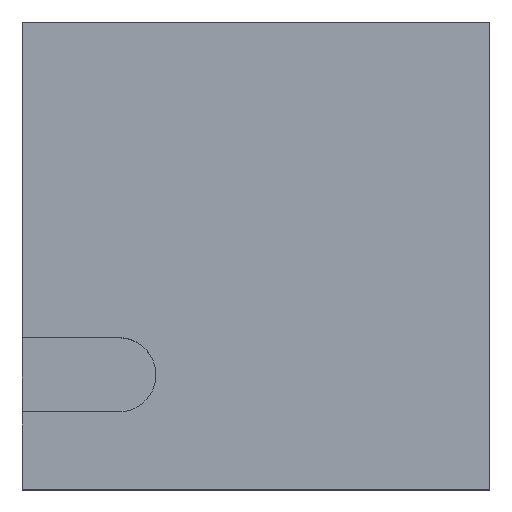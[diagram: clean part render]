
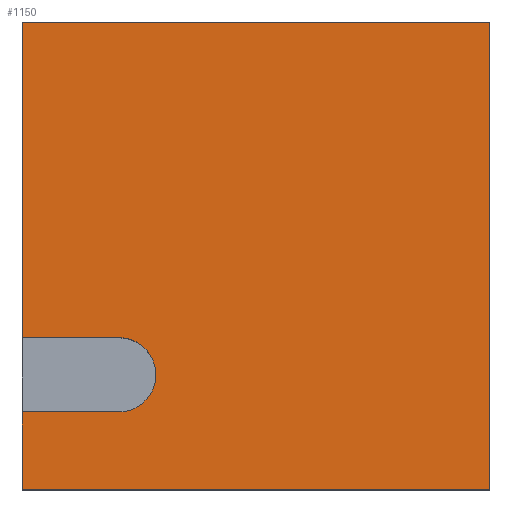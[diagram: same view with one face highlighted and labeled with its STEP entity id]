
A CAD part, top view. The second image highlights one B-rep face of the part: STEP entity #1150.
In plain terms, the highlighted planar face has unit normal (0, 0, 1).
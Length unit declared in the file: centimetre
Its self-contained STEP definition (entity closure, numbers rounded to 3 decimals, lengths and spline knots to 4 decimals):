
#3 = VERTEX_POINT ( 'NONE', #388 ) ;
#14 = CARTESIAN_POINT ( 'NONE',  ( 0., 324.5438, 1000. ) ) ;
#25 = DIRECTION ( 'NONE',  ( -1., 0., 0. ) ) ;
#27 = VERTEX_POINT ( 'NONE', #14 ) ;
#53 = DIRECTION ( 'NONE',  ( 1., 0., 0. ) ) ;
#57 = DIRECTION ( 'NONE',  ( 1., 0., 0. ) ) ;
#60 = CIRCLE ( 'NONE', #969, 79.6286 ) ;
#67 = CARTESIAN_POINT ( 'NONE',  ( 206.1071, 244.9152, 1000. ) ) ;
#68 = VECTOR ( 'NONE', #460, 100. ) ;
#87 = ORIENTED_EDGE ( 'NONE', *, *, #1019, .F. ) ;
#110 = LINE ( 'NONE', #1460, #764 ) ;
#189 = DIRECTION ( 'NONE',  ( -1., 0., 0. ) ) ;
#196 = VECTOR ( 'NONE', #599, 100. ) ;
#209 = VERTEX_POINT ( 'NONE', #720 ) ;
#242 = ORIENTED_EDGE ( 'NONE', *, *, #543, .T. ) ;
#250 = EDGE_CURVE ( 'NONE', #1136, #724, #110, .T. ) ;
#257 = VECTOR ( 'NONE', #25, 100. ) ;
#258 = ORIENTED_EDGE ( 'NONE', *, *, #286, .T. ) ;
#267 = ORIENTED_EDGE ( 'NONE', *, *, #396, .F. ) ;
#286 = EDGE_CURVE ( 'NONE', #724, #633, #504, .T. ) ;
#309 = ORIENTED_EDGE ( 'NONE', *, *, #1120, .F. ) ;
#324 = LINE ( 'NONE', #419, #1515 ) ;
#339 = CARTESIAN_POINT ( 'NONE',  ( 0., 1000., 1000. ) ) ;
#370 = DIRECTION ( 'NONE',  ( 1., 0., 0. ) ) ;
#388 = CARTESIAN_POINT ( 'NONE',  ( 206.1071, 165.2866, 1000. ) ) ;
#396 = EDGE_CURVE ( 'NONE', #3, #1303, #60, .T. ) ;
#419 = CARTESIAN_POINT ( 'NONE',  ( 0., 1000., 1000. ) ) ;
#452 = LINE ( 'NONE', #935, #1558 ) ;
#460 = DIRECTION ( 'NONE',  ( 0., -1., 0. ) ) ;
#476 = EDGE_LOOP ( 'NONE', ( #309, #1327, #267, #87, #1495, #1531, #258, #242, #843 ) ) ;
#486 = CARTESIAN_POINT ( 'NONE',  ( 1000., 1000., 1000. ) ) ;
#493 = CARTESIAN_POINT ( 'NONE',  ( 285.7357, 244.9152, 1000. ) ) ;
#504 = LINE ( 'NONE', #486, #1247 ) ;
#543 = EDGE_CURVE ( 'NONE', #633, #1578, #324, .T. ) ;
#551 = CARTESIAN_POINT ( 'NONE',  ( 1000., 1000., 1000. ) ) ;
#599 = DIRECTION ( 'NONE',  ( 0., -1., 0. ) ) ;
#602 = CIRCLE ( 'NONE', #1484, 79.6286 ) ;
#633 = VERTEX_POINT ( 'NONE', #551 ) ;
#644 = LINE ( 'NONE', #339, #196 ) ;
#720 = CARTESIAN_POINT ( 'NONE',  ( 0., 165.2866, 1000. ) ) ;
#724 = VERTEX_POINT ( 'NONE', #1487 ) ;
#764 = VECTOR ( 'NONE', #370, 100. ) ;
#843 = ORIENTED_EDGE ( 'NONE', *, *, #1243, .T. ) ;
#897 = CARTESIAN_POINT ( 'NONE',  ( 0., 1000., 1000. ) ) ;
#904 = DIRECTION ( 'NONE',  ( 1., 0., 0. ) ) ;
#935 = CARTESIAN_POINT ( 'NONE',  ( 0., 165.2866, 1000. ) ) ;
#969 = AXIS2_PLACEMENT_3D ( 'NONE', #67, #1382, #53 ) ;
#1002 = CARTESIAN_POINT ( 'NONE',  ( 0., 0., 1000. ) ) ;
#1019 = EDGE_CURVE ( 'NONE', #209, #3, #452, .T. ) ;
#1068 = VERTEX_POINT ( 'NONE', #1319 ) ;
#1097 = CARTESIAN_POINT ( 'NONE',  ( 206.1071, 244.9152, 1000. ) ) ;
#1120 = EDGE_CURVE ( 'NONE', #1068, #27, #1368, .T. ) ;
#1136 = VERTEX_POINT ( 'NONE', #1002 ) ;
#1150 = ADVANCED_FACE ( 'NONE', ( #1396 ), #1277, .T. ) ;
#1156 = CARTESIAN_POINT ( 'NONE',  ( 0., 0., 1000. ) ) ;
#1178 = LINE ( 'NONE', #1546, #68 ) ;
#1190 = DIRECTION ( 'NONE',  ( 0., 0., 1. ) ) ;
#1201 = AXIS2_PLACEMENT_3D ( 'NONE', #1156, #1526, #57 ) ;
#1243 = EDGE_CURVE ( 'NONE', #1578, #27, #1178, .T. ) ;
#1247 = VECTOR ( 'NONE', #1585, 100. ) ;
#1277 = PLANE ( 'NONE',  #1201 ) ;
#1302 = EDGE_CURVE ( 'NONE', #1303, #1068, #602, .T. ) ;
#1303 = VERTEX_POINT ( 'NONE', #493 ) ;
#1319 = CARTESIAN_POINT ( 'NONE',  ( 206.1071, 324.5438, 1000. ) ) ;
#1327 = ORIENTED_EDGE ( 'NONE', *, *, #1302, .F. ) ;
#1345 = EDGE_CURVE ( 'NONE', #209, #1136, #644, .T. ) ;
#1368 = LINE ( 'NONE', #1512, #257 ) ;
#1382 = DIRECTION ( 'NONE',  ( 0., 0., 1. ) ) ;
#1396 = FACE_OUTER_BOUND ( 'NONE', #476, .T. ) ;
#1460 = CARTESIAN_POINT ( 'NONE',  ( 0., 0., 1000. ) ) ;
#1484 = AXIS2_PLACEMENT_3D ( 'NONE', #1097, #1190, #1580 ) ;
#1487 = CARTESIAN_POINT ( 'NONE',  ( 1000., 0., 1000. ) ) ;
#1495 = ORIENTED_EDGE ( 'NONE', *, *, #1345, .T. ) ;
#1512 = CARTESIAN_POINT ( 'NONE',  ( 206.1071, 324.5438, 1000. ) ) ;
#1515 = VECTOR ( 'NONE', #189, 100. ) ;
#1526 = DIRECTION ( 'NONE',  ( 0., 0., 1. ) ) ;
#1531 = ORIENTED_EDGE ( 'NONE', *, *, #250, .T. ) ;
#1546 = CARTESIAN_POINT ( 'NONE',  ( 0., 1000., 1000. ) ) ;
#1558 = VECTOR ( 'NONE', #904, 100. ) ;
#1578 = VERTEX_POINT ( 'NONE', #897 ) ;
#1580 = DIRECTION ( 'NONE',  ( 1., 0., 0. ) ) ;
#1585 = DIRECTION ( 'NONE',  ( 0., 1., 0. ) ) ;
